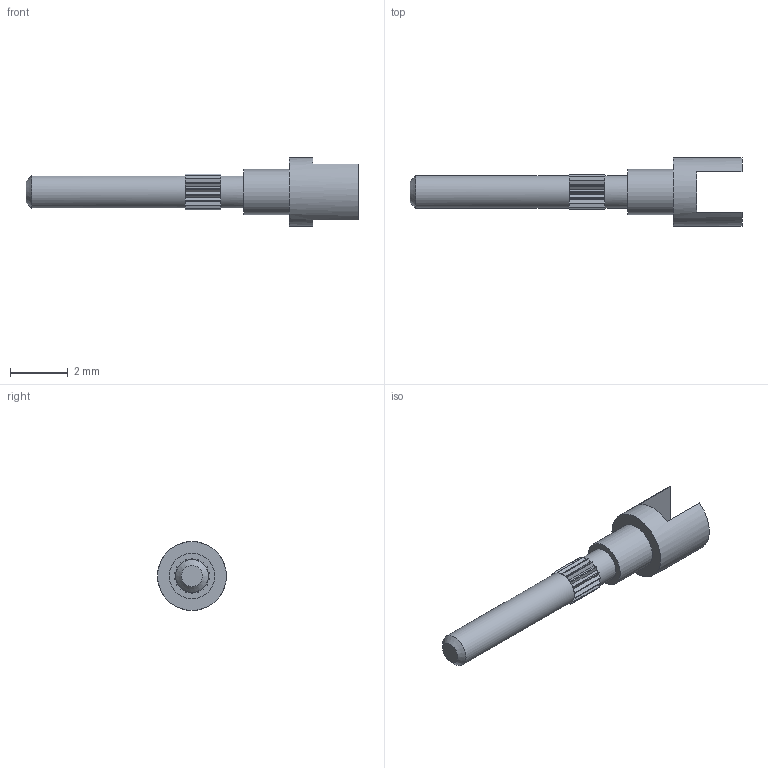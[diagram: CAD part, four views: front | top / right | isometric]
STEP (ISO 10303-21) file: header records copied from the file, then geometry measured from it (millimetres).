
FILE_DESCRIPTION(/* description */ (''),/* implementation_level */ '2;1');
FILE_NAME(/* name */ 'Z:\STEP folder\180-2228-01.ipt.stp',/* time_stamp */ '2016-12-07T16:16:43+00:00',/* author */ ('Paul Karlsons'),/* organization */ (''),/* preprocessor_version */ 'ST-DEVELOPER v15.2',/* originating_system */ 'Autodesk Inventor 2014',/* authorisation */ '');
FILE_SCHEMA (('AUTOMOTIVE_DESIGN { 1 0 10303 214 3 1 1 }'));
Length unit declared in the file: millimetre
Products named in the file (1): 180-2228-01
Bounding box: 11.51 x 2.39 x 2.39 mm (x, y, z)
Volume: 16.5 mm3; surface area: 65 mm2
Topology: 1 solids, 1 shells, 139 faces, 332 edges, 197 vertices
Faces by surface type: plane 116, cylinder 22, cone 1
Full cylindrical faces by diameter (mm): 1.143 x2, 1.575 x1, 2.388 x1
Entity records: 3929 total; most frequent: DIRECTION 722, CARTESIAN_POINT 658, ORIENTED_EDGE 648, EDGE_CURVE 324, AXIS2_PLACEMENT_3D 258, LINE 206, VECTOR 206, VERTEX_POINT 194
